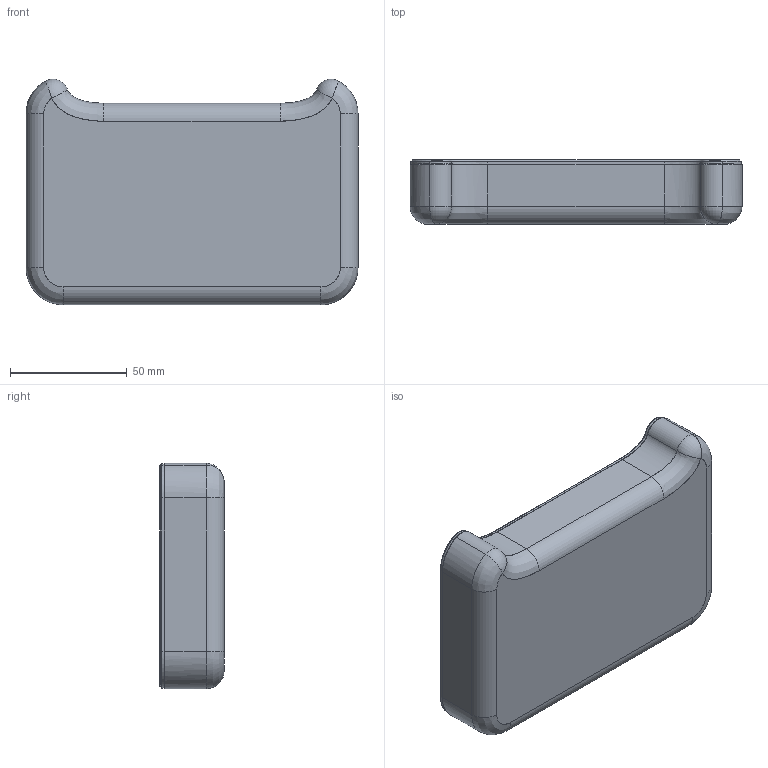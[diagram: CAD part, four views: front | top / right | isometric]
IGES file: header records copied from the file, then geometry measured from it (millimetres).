
Start section: SolidWorks IGES file using analytic representation for surfaces
Global section: file name: \\SBS\Data\NANUK\NANUK Marketing\NANUK Technical Drawings\3D Files\IGES\310\nano_310_bottom_INNER_SURFACES_assembly.IGS; native system: SolidWorks 2014; preprocessor: SolidWorks 2014; author: dposada; date: 150130.134111; units: millimetre
Bounding box: 142 x 27.48 x 96.46 mm (x, y, z)
Surface area: 64783.5 mm2 (no closed solid volume)
Topology: 0 solids, 0 shells, 1453 faces, 14909 edges, 14888 vertices
Faces by surface type: bspline 1297, revolution 156
